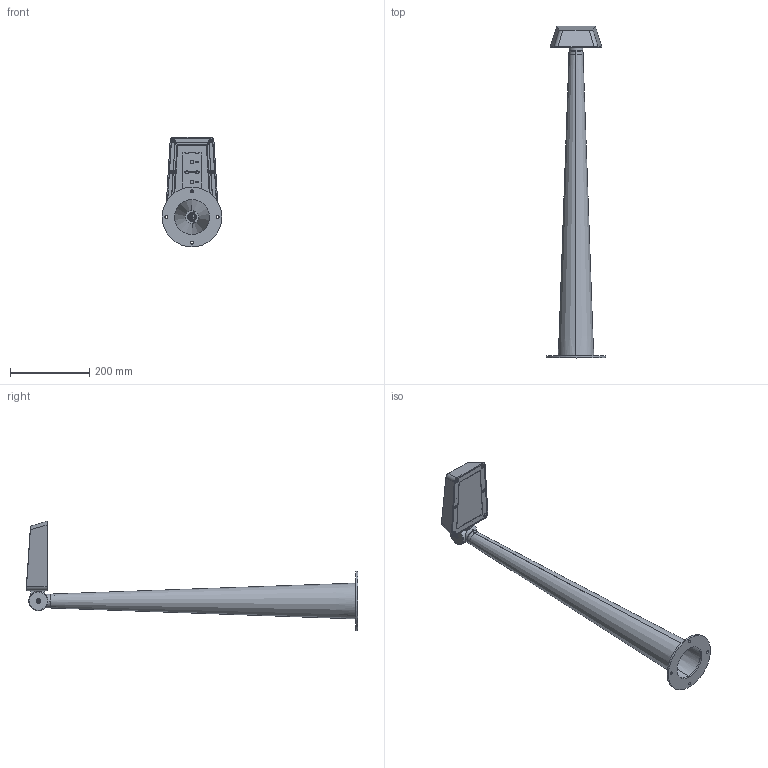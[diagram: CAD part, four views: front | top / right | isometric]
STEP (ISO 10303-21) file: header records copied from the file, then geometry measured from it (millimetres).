
FILE_DESCRIPTION((''),'2;1');
FILE_NAME('9AZ-DANTOU_ASM','2024-09-19T',('Administrator'),(''),'CREO PARAMETRIC BY PTC INC, 2014500','CREO PARAMETRIC BY PTC INC, 2014500','');
FILE_SCHEMA(('CONFIG_CONTROL_DESIGN'));
Products named in the file (29): ___B_W_O3_ANY-6905_ASM_4_ASM_AN_ASM; ___B_W_O____B_W____X__________A_ASM; ___B_W_O3_ANY-17482_ASM_4_ASM_A_ASM; DENGTIZUJIAN_ASM; _9AV-_____; ZHUIGUAN_ASM; 9AV-LIGHTING_ASM; MG_86_120_ANY; 9AV-XINDT; SANREBAN; 3DJ-SANREKUAI; LVJIBAN; 20W-QUDONG; TOUGUANGZHAO-A; XIN-LVJBAN-01; LENS-JY-AAD0410P-50503D_; GY-005_ASM; FGQUAN; M2-5-16; BTCNMUZUHE-DIYA; 9AV__120_J_______O_Y_ANY_ASM; ____1-17486; ____-____2-81358; 9AV-9AY___B_W_O______W___-30115_ASM; 9AV-9AY___B_W_O______W___-84887; XINZHUANZHOU; 9AV-9AY___B_W_O______W__-139877_ASM; SOCKET_HEAD_CAP_SCREW_ISO_ISO_4; 9AZ-DANTOU_ASM
Assembly tree (32 placements, depth 5):
  9AZ-DANTOU_ASM
    9AV-LIGHTING_ASM
      DENGTIZUJIAN_ASM
        ___B_W_O3_ANY-17482_ASM_4_ASM_A_ASM
          ___B_W_O3_ANY-6905_ASM_4_ASM_AN_ASM
          ___B_W_O____B_W____X__________A_ASM
      ZHUIGUAN_ASM
        _9AV-_____
    9AV__120_J_______O_Y_ANY_ASM
      MG_86_120_ANY
      9AV-XINDT
      SANREBAN
      3DJ-SANREKUAI
      LVJIBAN
      20W-QUDONG
      TOUGUANGZHAO-A
      GY-005_ASM  x2
        XIN-LVJBAN-01
        LENS-JY-AAD0410P-50503D_
      FGQUAN
      M2-5-16  x4
      BTCNMUZUHE-DIYA
    9AV-9AY___B_W_O______W__-139877_ASM
      9AV-9AY___B_W_O______W___-30115_ASM
        ____1-17486
        ____-____2-81358
      9AV-9AY___B_W_O______W___-84887
      XINZHUANZHOU
    SOCKET_HEAD_CAP_SCREW_ISO_ISO_4
Bounding box: 150 x 836 x 276.09 mm (x, y, z)
Volume: 680144.9 mm3; surface area: 644232 mm2
Topology: 22 solids, 22 shells, 2308 faces, 6138 edges, 3945 vertices
Faces by surface type: plane 1104, cylinder 612, cone 233, bspline 200, torus 90, revolution 32, extrusion 21, sphere 16
Entity records: 69745 total; most frequent: CARTESIAN_POINT 20820, ORIENTED_EDGE 10316, DIRECTION 9935, EDGE_CURVE 5158, AXIS2_PLACEMENT_3D 3503, VERTEX_POINT 3369, VECTOR 2913, LINE 2901
